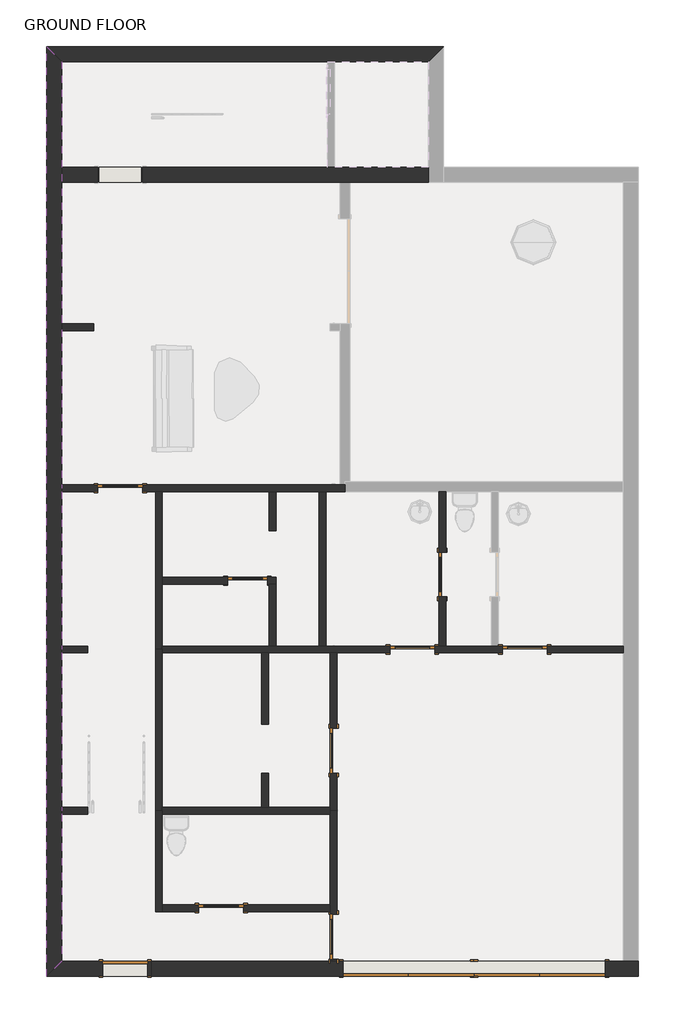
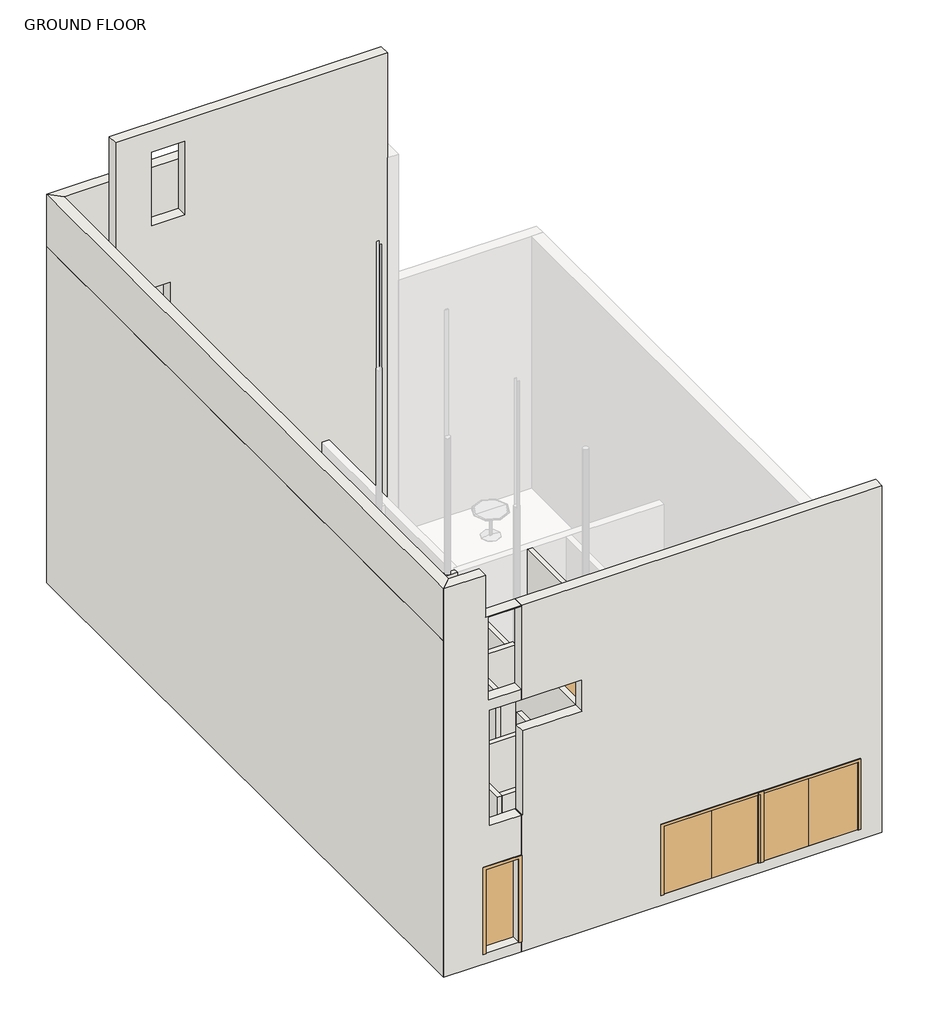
# One storey, part 1 of 2: 25 walls, 11 doors.
"""IFC4 building model written with IfcOpenShell, lengths in millimetres."""

from ifc_helpers import new_model, si_unit, frame, origin, origin_with_axes, place, context, project, spatial, polyline, outline, extrude, faceted_brep, transform, mapped, element, save
from components import double_flush_garage_doors_196828e7, single_flush_front_door_b84d2d09, door_6b1170f2, door_e49b49a8, door_4364fc02

model = new_model("IFC4")

# Units and contexts
model_context = context("Model", 3, world=origin())
ifc_project = project(units=[si_unit("LENGTHUNIT", "METRE", prefix="MILLI")], contexts=[model_context])

# Site, building, storey
site = spatial("IfcSite", under=ifc_project)
building = spatial("IfcBuilding", under=site)
storey = spatial("IfcBuildingStorey", under=building, Name="GROUND FLOOR", Elevation=0.0)

# Doors
placement = place(None, origin())
double_flush_garage_doors_shape = double_flush_garage_doors_196828e7(model_context)
element("IfcDoor", 1, ObjectType="Double-Flush : Garage Doors", at=placement, inside=storey, context=model_context, shape_type="MappedRepresentation", body=[
    mapped(double_flush_garage_doors_shape, transform((2594.1560388, -6836.940357, 0.0), x_axis=(1.0, 0.0, 0.0), y_axis=(0.0, 1.0, 0.0), z_axis=(0.0, 0.0, 1.0))),
])
element("IfcDoor", 2, ObjectType="Double-Flush : Garage Doors", at=placement, inside=storey, context=model_context, shape_type="MappedRepresentation", body=[
    mapped(double_flush_garage_doors_shape, transform((5261.1560388, -6836.940357, 0.0), x_axis=(1.0, 0.0, 0.0), y_axis=(0.0, 1.0, 0.0), z_axis=(0.0, 0.0, 1.0))),
])
single_flush_front_door_shape = single_flush_front_door_b84d2d09(model_context)
element("IfcDoor", 3, ObjectType="Single-Flush : Front Door", at=placement, inside=storey, context=model_context, shape_type="MappedRepresentation", body=[
    mapped(single_flush_front_door_shape, transform((-3171.6439612, -6836.940357, 0.0), x_axis=(-1.0, 0.0, 0.0), y_axis=(0.0, -1.0, 0.0), z_axis=(0.0, 0.0, 1.0))),
])
door_shape = door_6b1170f2(model_context)
element("IfcDoor", 4, ObjectType="Single-Glass 1 : 32\" x 84\"", at=placement, inside=storey, context=model_context, shape_type="MappedRepresentation", body=[
    mapped(door_shape, transform((-682.4439612, 1049.759643, 0.0), x_axis=(1.0, 0.0, 0.0), y_axis=(0.0, 1.0, 0.0), z_axis=(0.0, 0.0, 1.0))),
])
door_2_shape = door_e49b49a8(model_context)
element("IfcDoor", 5, ObjectType="Single-Glass 1 : 36\" x 84\"", at=placement, inside=storey, context=model_context, shape_type="MappedRepresentation", body=[
    mapped(door_2_shape, transform((2670.3560388, -347.240357, 0.0), x_axis=(1.0, 0.0, 0.0), y_axis=(0.0, 1.0, 0.0), z_axis=(0.0, 0.0, 1.0))),
])
door_3_shape = door_4364fc02(model_context)
element("IfcDoor", 6, ObjectType="Single-Glass 1 : 36\" x 84\"", at=placement, inside=storey, context=model_context, shape_type="MappedRepresentation", body=[
    mapped(door_3_shape, transform((4956.3560388, -347.240357, 0.0), x_axis=(-1.0, 0.0, 0.0), y_axis=(0.0, -1.0, 0.0), z_axis=(0.0, 0.0, 1.0))),
])
element("IfcDoor", 7, ObjectType="Single-Glass 1 : 36\" x 84\"", at=placement, inside=storey, context=model_context, shape_type="MappedRepresentation", body=[
    mapped(door_3_shape, transform((3279.9560388, 1176.759643, 0.0), x_axis=(0.0, -1.0, 0.0), y_axis=(1.0, 0.0, 0.0), z_axis=(0.0, 0.0, 1.0))),
])
element("IfcDoor", 8, ObjectType="Single-Glass 1 : 36\" x 84\"", at=placement, inside=storey, context=model_context, shape_type="MappedRepresentation", body=[
    mapped(door_3_shape, transform((1070.1560388, -2404.640357, 0.0), x_axis=(0.0, -1.0, 0.0), y_axis=(1.0, 0.0, 0.0), z_axis=(0.0, 0.0, 1.0))),
])
element("IfcDoor", 9, ObjectType="Single-Glass 1 : 36\" x 84\"", at=placement, inside=storey, context=model_context, shape_type="MappedRepresentation", body=[
    mapped(door_3_shape, transform((-3269.8798898, 2929.359643, 0.0), x_axis=(-1.0, 0.0, 0.0), y_axis=(0.0, -1.0, 0.0), z_axis=(0.0, 0.0, 1.0))),
])
element("IfcDoor", 10, ObjectType="Single-Glass 1 : 36\" x 84\"", at=placement, inside=storey, context=model_context, shape_type="MappedRepresentation", body=[
    mapped(door_3_shape, transform((-1215.8439612, -5605.040357, 0.0), x_axis=(-1.0, 0.0, 0.0), y_axis=(0.0, -1.0, 0.0), z_axis=(0.0, 0.0, 1.0))),
])
element("IfcDoor", 11, ObjectType="Single-Glass 1 : 36\" x 84\"", at=placement, inside=storey, context=model_context, shape_type="MappedRepresentation", body=[
    mapped(door_3_shape, transform((1070.1560388, -6189.240357, 0.0), x_axis=(0.0, -1.0, 0.0), y_axis=(1.0, 0.0, 0.0), z_axis=(0.0, 0.0, 1.0))),
])

# Walls
element("IfcWall", 12, ObjectType="Cast Concrete Wall 12\"", at=placement, inside=storey, context=model_context, shape_type="Brep", body=[
    faceted_brep([(7267.7560388, -6684.540357, -304.8), (6962.9560388, -6684.540357, -304.8), (-2638.2439612, -6684.540357, -304.8), (-2638.2439612, -6684.540357, 3657.6), (-2612.8439612, -6684.540357, 3657.6), (-2612.8439612, -6684.540357, 6096.0), (-968.1939612, -6684.540357, 6096.0), (-968.1939612, -6684.540357, 7010.4), (-2638.2439612, -6684.540357, 7010.4), (-2638.2439612, -6684.540357, 7315.2), (-2638.2439612, -6684.540357, 9728.2), (-2638.2439612, -6684.540357, 9753.6), (1527.3560388, -6684.540357, 9753.6), (1730.5560388, -6684.540357, 9753.6), (7267.7560388, -6684.540357, 9753.6), (7267.7560388, -6684.540357, 7315.2), (1260.6560388, -6684.540357, 1981.2), (1260.6560388, -6684.540357, 0.0), (6594.6560388, -6684.540357, 0.0), (6594.6560388, -6684.540357, 1981.2), (-2638.2439612, -6989.340357, -304.8), (7267.7560388, -6989.340357, -304.8), (7267.7560388, -6989.340357, 9753.6), (-2638.2439612, -6989.340357, 9753.6), (-2638.2439612, -6989.340357, 9728.2), (-2638.2439612, -6989.340357, 7315.2), (-2638.2439612, -6989.340357, 7010.4), (-968.1939612, -6989.340357, 7010.4), (-968.1939612, -6989.340357, 6096.0), (-2612.8439612, -6989.340357, 6096.0), (-2612.8439612, -6989.340357, 3657.6), (-2638.2439612, -6989.340357, 3657.6), (1260.6560388, -6989.340357, 0.0), (1260.6560388, -6989.340357, 1981.2), (6594.6560388, -6989.340357, 1981.2), (6594.6560388, -6989.340357, 0.0)], [[[0, 1, 2, 3, 4, 5, 6, 7, 8, 9, 10, 11, 12, 13, 14, 15], [16, 17, 18, 19]], [[20, 21, 22, 23, 24, 25, 26, 27, 28, 29, 30, 31], [32, 33, 34, 35]], [[2, 1, 0, 21, 20]], [[2, 20, 31, 3]], [[23, 11, 10, 9, 8, 26, 25, 24]], [[14, 13, 12, 11, 23, 22]], [[0, 15, 14, 22, 21]], [[33, 16, 19, 34]], [[17, 16, 33, 32]], [[17, 32, 35, 18]], [[18, 35, 34, 19]], [[28, 6, 5, 29]], [[26, 8, 7, 27]], [[27, 7, 6, 28]], [[4, 30, 29, 5]], [[30, 4, 3, 31]]]),
])
element("IfcWall", 13, ObjectType="Cast Concrete Wall 12\"", at=placement, inside=storey, context=model_context, shape_type="SweptSolid", body=[
    extrude(outline(polyline([(-4467.0439612, 11603.459643), (-4467.0439612, -6684.540357), (-4771.8439612, -6989.340357), (-4771.8439612, 11908.259643), (-4467.0439612, 11603.459643)])), frame((0.0, 0.0, -304.8), z_axis=(0.0, 0.0, 1.0), x_axis=(1.0, 0.0, 0.0)), (0.0, 0.0, 1.0), 9753.6),
])
element("IfcWall", 14, ObjectType="Cast Concrete Wall 12\"", at=placement, inside=storey, context=model_context, shape_type="Brep", body=[
    faceted_brep([(-4467.0439612, 11603.459643, 10972.8), (-4467.0439612, 11603.459643, -304.8), (3000.5560388, 11603.459643, -304.8), (3000.5560388, 11603.459643, 10972.8), (1089.2060388, 11603.459643, 10972.8), (949.5060388, 11603.459643, 10972.8), (-4771.8439612, 11908.259643, -304.8), (-4771.8439612, 11908.259643, 10972.8), (3305.3560388, 11908.259643, 10972.8), (3305.3560388, 11908.259643, -304.8)], [[[0, 1, 2, 3, 4, 5]], [[6, 7, 8, 9]], [[2, 1, 6, 9]], [[0, 5, 4, 3, 8, 7]], [[3, 2, 9, 8]], [[0, 7, 6, 1]]]),
])
element("IfcWall", 15, ObjectType="Cast Concrete Wall 12\"", at=placement, inside=storey, context=model_context, shape_type="Brep", body=[
    faceted_brep([(3000.5560388, 9457.159643, 14020.8), (3000.5560388, 9457.159643, -304.8), (-4467.0439612, 9457.159643, -304.8), (-4467.0439612, 9457.159643, 14020.8), (-2562.0439612, 9457.159643, 11277.6), (-2562.0439612, 9457.159643, 13411.2), (-3476.4439612, 9457.159643, 13411.2), (-3476.4439612, 9457.159643, 11277.6), (-2812.6798898, 9457.159643, 2133.6), (-3727.0798898, 9457.159643, 2133.6), (-3727.0798898, 9457.159643, 0.0), (-2812.6798898, 9457.159643, 0.0), (-3727.0798898, 9457.159643, 5791.2), (-3727.0798898, 9457.159643, 3657.6), (-2812.6798898, 9457.159643, 3657.6), (-2812.6798898, 9457.159643, 5791.2), (-2965.0798898, 9457.159643, 9448.8), (-3879.4798898, 9457.159643, 9448.8), (-3879.4798898, 9457.159643, 7315.2), (-2965.0798898, 9457.159643, 7315.2), (3000.5560388, 9152.359643, -304.8), (3000.5560388, 9152.359643, 10972.8), (3000.5560388, 9152.359643, 14020.8), (-4467.0439612, 9152.359643, 14020.8), (-4467.0439612, 9152.359643, 10972.8), (-4467.0439612, 9152.359643, -304.8), (-2562.0439612, 9152.359643, 11277.6), (-3476.4439612, 9152.359643, 11277.6), (-3476.4439612, 9152.359643, 13411.2), (-2562.0439612, 9152.359643, 13411.2), (-2812.6798898, 9152.359643, 2133.6), (-2812.6798898, 9152.359643, 0.0), (-3727.0798898, 9152.359643, 0.0), (-3727.0798898, 9152.359643, 2133.6), (-3727.0798898, 9152.359643, 5791.2), (-2812.6798898, 9152.359643, 5791.2), (-2812.6798898, 9152.359643, 3657.6), (-3727.0798898, 9152.359643, 3657.6), (-2965.0798898, 9152.359643, 9448.8), (-2965.0798898, 9152.359643, 7315.2), (-3879.4798898, 9152.359643, 7315.2), (-3879.4798898, 9152.359643, 9448.8)], [[[0, 1, 2, 3], [4, 5, 6, 7], [8, 9, 10, 11], [12, 13, 14, 15], [16, 17, 18, 19]], [[20, 21, 22, 23, 24, 25], [26, 27, 28, 29], [30, 31, 32, 33], [34, 35, 36, 37], [38, 39, 40, 41]], [[2, 1, 20, 25]], [[0, 3, 23, 22]], [[0, 22, 21, 20, 1]], [[3, 2, 25, 24, 23]], [[27, 26, 4, 7]], [[28, 27, 7, 6]], [[29, 28, 6, 5]], [[26, 29, 5, 4]], [[31, 30, 8, 11]], [[32, 31, 11, 10]], [[33, 32, 10, 9]], [[30, 33, 9, 8]], [[13, 12, 34, 37]], [[14, 13, 37, 36]], [[15, 14, 36, 35]], [[12, 15, 35, 34]], [[39, 38, 16, 19]], [[40, 39, 19, 18]], [[41, 40, 18, 17]], [[38, 41, 17, 16]]]),
])
element("IfcWall", 16, ObjectType="Cast Concrete Wall 12\"", at=placement, inside=storey, context=model_context, shape_type="Brep", body=[
    faceted_brep([(-2638.2439612, -6684.540357, -304.8), (-4467.0439612, -6684.540357, -304.8), (-4467.0439612, -6684.540357, 10972.8), (-3628.8439612, -6684.540357, 10972.8), (-3628.8439612, -6684.540357, 9753.6), (-2638.2439612, -6684.540357, 9753.6), (-2638.2439612, -6684.540357, 9728.2), (-3552.6439612, -6684.540357, 9728.2), (-3552.6439612, -6684.540357, 7315.2), (-2638.2439612, -6684.540357, 7315.2), (-2638.2439612, -6684.540357, 7010.4), (-3527.2439612, -6684.540357, 7010.4), (-3527.2439612, -6684.540357, 3657.6), (-2638.2439612, -6684.540357, 3657.6), (-3628.8439612, -6684.540357, 0.0), (-2714.4439612, -6684.540357, 0.0), (-2714.4439612, -6684.540357, 2438.4), (-3628.8439612, -6684.540357, 2438.4), (-4771.8439612, -6989.340357, -304.8), (-2638.2439612, -6989.340357, -304.8), (-2638.2439612, -6989.340357, 3657.6), (-3527.2439612, -6989.340357, 3657.6), (-3527.2439612, -6989.340357, 7010.4), (-2638.2439612, -6989.340357, 7010.4), (-2638.2439612, -6989.340357, 7315.2), (-3552.6439612, -6989.340357, 7315.2), (-3552.6439612, -6989.340357, 9728.2), (-2638.2439612, -6989.340357, 9728.2), (-2638.2439612, -6989.340357, 9753.6), (-3628.8439612, -6989.340357, 9753.6), (-3628.8439612, -6989.340357, 10972.8), (-4771.8439612, -6989.340357, 10972.8), (-2714.4439612, -6989.340357, 0.0), (-3628.8439612, -6989.340357, 0.0), (-3628.8439612, -6989.340357, 2438.4), (-2714.4439612, -6989.340357, 2438.4)], [[[0, 1, 2, 3, 4, 5, 6, 7, 8, 9, 10, 11, 12, 13], [14, 15, 16, 17]], [[18, 19, 20, 21, 22, 23, 24, 25, 26, 27, 28, 29, 30, 31], [32, 33, 34, 35]], [[1, 0, 19, 18]], [[3, 2, 31, 30]], [[4, 3, 30, 29]], [[5, 4, 29, 28]], [[5, 28, 27, 6]], [[19, 0, 13, 20]], [[9, 24, 23, 10]], [[1, 18, 31, 2]], [[8, 25, 24, 9]], [[25, 8, 7, 26]], [[26, 7, 6, 27]], [[32, 15, 14, 33]], [[33, 14, 17, 34]], [[34, 17, 16, 35]], [[15, 32, 35, 16]], [[11, 22, 21, 12]], [[22, 11, 10, 23]], [[12, 21, 20, 13]]]),
])
element("IfcWall", 17, ObjectType="Cast Concrete Wall 12\"", at=placement, inside=storey, context=model_context, shape_type="Brep", body=[
    faceted_brep([(-4467.0439612, -6684.540357, 9448.8), (-4467.0439612, 11603.459643, 9448.8), (-4467.0439612, 11603.459643, 10972.8), (-4467.0439612, 3000.0810017, 10972.8), (-4467.0439612, 2860.3810017, 10972.8), (-4467.0439612, -276.5189983, 10972.8), (-4467.0439612, -416.2189983, 10972.8), (-4467.0439612, -3553.1189983, 10972.8), (-4467.0439612, -3692.8189983, 10972.8), (-4467.0439612, -6684.540357, 10972.8), (-4771.8439612, -6989.340357, 9448.8), (-4771.8439612, -6989.340357, 10972.8), (-4771.8439612, 11908.259643, 10972.8), (-4771.8439612, 11908.259643, 9448.8)], [[[0, 1, 2, 3, 4, 5, 6, 7, 8, 9]], [[10, 11, 12, 13]], [[1, 0, 10, 13]], [[9, 8, 7, 6, 5, 4, 3, 2, 12, 11]], [[2, 1, 13, 12]], [[0, 9, 11, 10]]]),
])
element("IfcWall", 18, ObjectType="Interior - 5 1/2\" Partition (1-hr)", at=placement, inside=storey, context=model_context, shape_type="Brep", body=[
    faceted_brep([(1140.0060388, -3623.840357, 0.0), (1140.0060388, -3593.3868269, 0.0), (1140.0060388, -2861.840357, 0.0), (1140.0060388, -2861.840357, 2133.6), (1140.0060388, -1947.440357, 2133.6), (1140.0060388, -1947.440357, 0.0), (1140.0060388, -417.090357, 0.0), (1140.0060388, -417.090357, 3352.8), (1140.0060388, -3623.840357, 3352.8), (1000.3060388, -2861.840357, 2133.6), (1000.3060388, -2861.840357, 0.0), (1000.3060388, -3553.990357, 0.0), (1000.3060388, -3623.840357, 0.0), (1000.3060388, -3623.840357, 3352.8), (1000.3060388, -3553.990357, 3352.8), (1000.3060388, -417.090357, 3352.8), (1000.3060388, -417.090357, 0.0), (1000.3060388, -1947.440357, 0.0), (1000.3060388, -1947.440357, 2133.6)], [[[0, 1, 2, 3, 4, 5, 6, 7, 8]], [[9, 10, 11, 12, 13, 14, 15, 16, 17, 18]], [[12, 11, 10, 2, 1, 0]], [[17, 16, 6, 5]], [[0, 8, 13, 12]], [[7, 6, 16, 15]], [[8, 7, 15, 14, 13]], [[3, 2, 10, 9]], [[4, 3, 9, 18]], [[5, 4, 18, 17]]]),
])
element("IfcWall", 19, ObjectType="Interior - 5 1/2\" Partition (1-hr)", at=placement, inside=storey, context=model_context, shape_type="SweptSolid", body=[
    extrude(outline(polyline([(911.4060388, 2859.509643), (911.4060388, -277.390357), (771.7060388, -277.390357), (771.7060388, 2859.509643), (911.4060388, 2859.509643)])), origin_with_axes(), (0.0, 0.0, 1.0), 3352.8),
])
element("IfcWall", 20, ObjectType="Interior - 5 1/2\" Partition (1-hr)", at=placement, inside=storey, context=model_context, shape_type="SweptSolid", body=[
    extrude(outline(polyline([(-4467.0439612, 6272.5766583), (-3808.0569983, 6272.5766583), (-3808.0569983, 6132.8766583), (-4467.0439612, 6132.8766583), (-4467.0439612, 6272.5766583)])), origin_with_axes(), (0.0, 0.0, 1.0), 3352.8),
])
element("IfcWall", 21, ObjectType="Interior - 5 1/2\" Partition (1-hr)", at=placement, inside=storey, context=model_context, shape_type="Brep", body=[
    faceted_brep([(-2555.6939612, 2859.509643, 0.0), (-2555.6939612, -347.240357, 0.0), (-2555.6939612, -347.240357, 3352.8), (-2555.6939612, 2859.509643, 3352.8), (-2415.9939612, 2859.509643, 0.0), (-2415.9939612, 2859.509643, 3352.8), (-2415.9939612, 1119.609643, 3352.8), (-2415.9939612, 979.909643, 3352.8), (-2415.9939612, -277.390357, 3352.8), (-2415.9939612, -347.240357, 3352.8), (-2415.9939612, -347.240357, 0.0), (-2415.9939612, -277.390357, 0.0), (-2415.9939612, 979.909643, 0.0), (-2415.9939612, 1119.609643, 0.0)], [[[0, 1, 2, 3]], [[4, 5, 6, 7, 8, 9, 10, 11, 12, 13]], [[1, 0, 4, 13, 12, 11, 10]], [[2, 1, 10, 9]], [[0, 3, 5, 4]], [[3, 2, 9, 8, 7, 6, 5]]]),
])
element("IfcWall", 22, ObjectType="Interior - 5 1/2\" Partition (1-hr)", at=placement, inside=storey, context=model_context, shape_type="Brep", body=[
    faceted_brep([(-2555.6939612, -347.240357, 0.0), (-2555.6939612, -3623.840357, 0.0), (-2555.6939612, -3623.840357, 3352.8), (-2555.6939612, -347.240357, 3352.8), (-2415.9939612, -347.240357, 0.0), (-2415.9939612, -347.240357, 3352.8), (-2415.9939612, -417.090357, 3352.8), (-2415.9939612, -3553.990357, 3352.8), (-2415.9939612, -3623.840357, 3352.8), (-2415.9939612, -3623.840357, 0.0), (-2415.9939612, -3553.990357, 0.0), (-2415.9939612, -417.090357, 0.0)], [[[0, 1, 2, 3]], [[4, 5, 6, 7, 8, 9, 10, 11]], [[1, 0, 4, 11, 10, 9]], [[2, 1, 9, 8]], [[0, 3, 5, 4]], [[3, 2, 8, 7, 6, 5]]]),
])
element("IfcWall", 23, ObjectType="Interior - 5 1/2\" Partition (1-hr)", at=placement, inside=storey, context=model_context, shape_type="Brep", body=[
    faceted_brep([(-2555.6939612, -3623.840357, 0.0), (-2555.6939612, -5674.890357, 0.0), (-2555.6939612, -5674.890357, 3352.8), (-2555.6939612, -3623.840357, 3352.8), (-2415.9939612, -3623.840357, 0.0), (-2415.9939612, -3623.840357, 3352.8), (-2415.9939612, -3693.690357, 3352.8), (-2415.9939612, -5535.190357, 3352.8), (-2415.9939612, -5674.890357, 3352.8), (-2415.9939612, -5674.890357, 0.0), (-2415.9939612, -5535.190357, 0.0), (-2415.9939612, -3693.690357, 0.0)], [[[0, 1, 2, 3]], [[4, 5, 6, 7, 8, 9, 10, 11]], [[1, 0, 4, 11, 10, 9]], [[0, 3, 5, 4]], [[2, 1, 9, 8]], [[3, 2, 8, 7, 6, 5]]]),
])
element("IfcWall", 24, ObjectType="Interior - 5 1/2\" Partition (1-hr)", at=placement, inside=storey, context=model_context, shape_type="SweptSolid", body=[
    extrude(outline(polyline([(0.0, -2415.9939612), (0.0, -1673.0439612), (2133.6, -1673.0439612), (2133.6, -758.6439612), (0.0, -758.6439612), (0.0, 1000.3060388), (3352.8, 1000.3060388), (3352.8, -2415.9939612), (0.0, -2415.9939612)])), frame((0.0, -5674.890357, 0.0), z_axis=(0.0, 1.0, 0.0), x_axis=(0.0, 0.0, 1.0)), (0.0, 0.0, 1.0), 139.7),
])
element("IfcWall", 25, ObjectType="Interior - 5 1/2\" Partition (1-hr)", at=placement, inside=storey, context=model_context, shape_type="Brep", body=[
    faceted_brep([(1140.0060388, -6684.540357, 0.0), (1140.0060388, -6646.440357, 0.0), (1140.0060388, -6646.440357, 2133.6), (1140.0060388, -5732.040357, 2133.6), (1140.0060388, -5732.040357, 0.0), (1140.0060388, -3654.2938872, 0.0), (1140.0060388, -3623.840357, 0.0), (1140.0060388, -3623.840357, 3352.8), (1140.0060388, -6684.540357, 3352.8), (1000.3060388, -6646.440357, 2133.6), (1000.3060388, -6646.440357, 0.0), (1000.3060388, -6684.540357, 0.0), (1000.3060388, -6684.540357, 3352.8), (1000.3060388, -5674.890357, 3352.8), (1000.3060388, -5535.190357, 3352.8), (1000.3060388, -3693.690357, 3352.8), (1000.3060388, -3623.840357, 3352.8), (1000.3060388, -3623.840357, 0.0), (1000.3060388, -3693.690357, 0.0), (1000.3060388, -5535.190357, 0.0), (1000.3060388, -5674.890357, 0.0), (1000.3060388, -5732.040357, 0.0), (1000.3060388, -5732.040357, 2133.6)], [[[0, 1, 2, 3, 4, 5, 6, 7, 8]], [[9, 10, 11, 12, 13, 14, 15, 16, 17, 18, 19, 20, 21, 22]], [[11, 10, 1, 0]], [[21, 20, 19, 18, 17, 6, 5, 4]], [[7, 6, 17, 16]], [[0, 8, 12, 11]], [[8, 7, 16, 15, 14, 13, 12]], [[2, 1, 10, 9]], [[3, 2, 9, 22]], [[4, 3, 22, 21]]]),
])
element("IfcWall", 26, ObjectType="Interior - 5 1/2\" Partition (1-hr)", at=placement, inside=storey, context=model_context, shape_type="SweptSolid", body=[
    extrude(outline(polyline([(719.559643, 2133.6), (719.559643, 0.0), (-277.390357, 0.0), (-277.390357, 3352.8), (2859.509643, 3352.8), (2859.509643, 0.0), (1633.959643, 0.0), (1633.959643, 2133.6), (719.559643, 2133.6)])), frame((3210.1060388, 0.0, 0.0), z_axis=(1.0, 0.0, 0.0), x_axis=(0.0, 1.0, 0.0)), (0.0, 0.0, 1.0), 139.7),
])
element("IfcWall", 27, ObjectType="Interior - 5 1/2\" Partition (1-hr)", at=placement, inside=storey, context=model_context, shape_type="Brep", body=[
    faceted_brep([(4499.1560388, -277.390357, 2133.6), (4499.1560388, -277.390357, 0.0), (4416.6060388, -277.390357, 0.0), (4276.9060388, -277.390357, 0.0), (3349.8060388, -277.390357, 0.0), (3210.1060388, -277.390357, 0.0), (3127.5560388, -277.390357, 0.0), (3127.5560388, -277.390357, 2133.6), (2213.1560388, -277.390357, 2133.6), (2213.1560388, -277.390357, 0.0), (1100.609569, -277.390357, 0.0), (1039.7025086, -277.390357, 0.0), (911.4060388, -277.390357, 0.0), (771.7060388, -277.390357, 0.0), (-104.5939612, -277.390357, 0.0), (-244.2939612, -277.390357, 0.0), (-2415.9939612, -277.390357, 0.0), (-2415.9939612, -277.390357, 3352.8), (-244.2939612, -277.390357, 3352.8), (-104.5939612, -277.390357, 3352.8), (771.7060388, -277.390357, 3352.8), (911.4060388, -277.390357, 3352.8), (1559.1060388, -277.390357, 3352.8), (3210.1060388, -277.390357, 3352.8), (3349.8060388, -277.390357, 3352.8), (4276.9060388, -277.390357, 3352.8), (4416.6060388, -277.390357, 3352.8), (6962.9560388, -277.390357, 3352.8), (6962.9560388, -277.390357, 0.0), (5413.5560388, -277.390357, 0.0), (5413.5560388, -277.390357, 2133.6), (3127.5560388, -417.090357, 0.0), (4499.1560388, -417.090357, 0.0), (4499.1560388, -417.090357, 2133.6), (5413.5560388, -417.090357, 2133.6), (5413.5560388, -417.090357, 0.0), (6962.9560388, -417.090357, 0.0), (6962.9560388, -417.090357, 3352.8), (1559.1060388, -417.090357, 3352.8), (1140.0060388, -417.090357, 3352.8), (1000.3060388, -417.090357, 3352.8), (-256.9939612, -417.090357, 3352.8), (-396.6939612, -417.090357, 3352.8), (-2415.9939612, -417.090357, 3352.8), (-2415.9939612, -417.090357, 0.0), (-396.6939612, -417.090357, 0.0), (-256.9939612, -417.090357, 0.0), (1000.3060388, -417.090357, 0.0), (1140.0060388, -417.090357, 0.0), (2213.1560388, -417.090357, 0.0), (2213.1560388, -417.090357, 2133.6), (3127.5560388, -417.090357, 2133.6), (-2415.9939612, -347.240357, 0.0), (-2415.9939612, -347.240357, 3352.8)], [[[0, 1, 2, 3, 4, 5, 6, 7, 8, 9, 10, 11, 12, 13, 14, 15, 16, 17, 18, 19, 20, 21, 22, 23, 24, 25, 26, 27, 28, 29, 30]], [[31, 32, 33, 34, 35, 36, 37, 38, 39, 40, 41, 42, 43, 44, 45, 46, 47, 48, 49, 50, 51]], [[6, 5, 4, 3, 2, 1, 32, 31]], [[49, 48, 47, 46, 45, 44, 52, 16, 15, 14, 13, 12, 11, 10, 9]], [[29, 28, 36, 35]], [[28, 27, 37, 36]], [[17, 16, 52, 44, 43, 53]], [[27, 26, 25, 24, 23, 22, 38, 37]], [[22, 21, 20, 19, 18, 17, 53, 43, 42, 41, 40, 39, 38]], [[7, 6, 31, 51]], [[8, 7, 51, 50]], [[9, 8, 50, 49]], [[33, 32, 1, 0]], [[34, 33, 0, 30]], [[35, 34, 30, 29]]]),
])
element("IfcWall", 28, ObjectType="Interior - 5 1/2\" Partition (1-hr)", at=placement, inside=storey, context=model_context, shape_type="SweptSolid", body=[
    extrude(outline(polyline([(-4467.0439612, -277.390357), (-3935.0569983, -277.390357), (-3935.0569983, -417.090357), (-4467.0439612, -417.090357), (-4467.0439612, -277.390357)])), origin_with_axes(), (0.0, 0.0, 1.0), 3657.6),
])
element("IfcWall", 29, ObjectType="Interior - 5 1/2\" Partition (1-hr)", at=placement, inside=storey, context=model_context, shape_type="Brep", body=[
    faceted_brep([(-4467.0439612, 2859.509643, 0.0), (-3727.0798898, 2859.509643, 0.0), (-3727.0798898, 2859.509643, 2133.6), (-2812.6798898, 2859.509643, 2133.6), (-2812.6798898, 2859.509643, 0.0), (-2555.6939612, 2859.509643, 0.0), (-2415.9939612, 2859.509643, 0.0), (-244.2939612, 2859.509643, 0.0), (-104.5939612, 2859.509643, 0.0), (771.7060388, 2859.509643, 0.0), (911.4060388, 2859.509643, 0.0), (1298.7560388, 2859.509643, 0.0), (1298.7560388, 2859.509643, 3352.8), (911.4060388, 2859.509643, 3352.8), (771.7060388, 2859.509643, 3352.8), (-104.5939612, 2859.509643, 3352.8), (-244.2939612, 2859.509643, 3352.8), (-2415.9939612, 2859.509643, 3352.8), (-2555.6939612, 2859.509643, 3352.8), (-4467.0439612, 2859.509643, 3352.8), (-3727.0798898, 2999.209643, 2133.6), (-3727.0798898, 2999.209643, 0.0), (-4467.0439612, 2999.209643, 0.0), (-4467.0439612, 2999.209643, 3352.8), (1197.1560388, 2999.209643, 3352.8), (1298.7560388, 2999.209643, 3352.8), (1298.7560388, 2999.209643, 0.0), (1197.1560388, 2999.209643, 0.0), (1126.9521654, 2999.209643, 0.0), (1013.3599122, 2999.209643, 0.0), (-2812.6798898, 2999.209643, 0.0), (-2812.6798898, 2999.209643, 2133.6)], [[[0, 1, 2, 3, 4, 5, 6, 7, 8, 9, 10, 11, 12, 13, 14, 15, 16, 17, 18, 19]], [[20, 21, 22, 23, 24, 25, 26, 27, 28, 29, 30, 31]], [[22, 21, 1, 0]], [[30, 29, 28, 27, 26, 11, 10, 9, 8, 7, 6, 5, 4]], [[12, 11, 26, 25]], [[19, 18, 17, 16, 15, 14, 13, 12, 25, 24, 23]], [[0, 19, 23, 22]], [[2, 1, 21, 20]], [[3, 2, 20, 31]], [[4, 3, 31, 30]]]),
])
element("IfcWall", 30, ObjectType="Interior - 5 1/2\" Partition (1-hr)", at=placement, inside=storey, context=model_context, shape_type="Brep", body=[
    faceted_brep([(-276.0439612, 979.909643, 2133.6), (-276.0439612, 979.909643, 0.0), (-244.2939612, 979.909643, 0.0), (-104.5939612, 979.909643, 0.0), (-104.5939612, 979.909643, 3352.8), (-244.2939612, 979.909643, 3352.8), (-2415.9939612, 979.909643, 3352.8), (-2415.9939612, 979.909643, 0.0), (-1088.8439612, 979.909643, 0.0), (-1088.8439612, 979.909643, 2133.6), (-104.5939612, 1119.609643, 0.0), (-276.0439612, 1119.609643, 0.0), (-276.0439612, 1119.609643, 2133.6), (-1088.8439612, 1119.609643, 2133.6), (-1088.8439612, 1119.609643, 0.0), (-2415.9939612, 1119.609643, 0.0), (-2415.9939612, 1119.609643, 3352.8), (-104.5939612, 1119.609643, 3352.8)], [[[0, 1, 2, 3, 4, 5, 6, 7, 8, 9]], [[10, 11, 12, 13, 14, 15, 16, 17]], [[3, 2, 1, 11, 10]], [[8, 7, 15, 14]], [[4, 3, 10, 17]], [[7, 6, 16, 15]], [[6, 5, 4, 17, 16]], [[12, 11, 1, 0]], [[13, 12, 0, 9]], [[14, 13, 9, 8]]]),
])
element("IfcWall", 31, ObjectType="Interior - 5 1/2\" Partition (1-hr)", at=placement, inside=storey, context=model_context, shape_type="SweptSolid", body=[
    extrude(outline(polyline([(-244.2939612, 2065.759643), (-244.2939612, 2859.509643), (-104.5939612, 2859.509643), (-104.5939612, 2065.759643), (-244.2939612, 2065.759643)])), origin_with_axes(), (0.0, 0.0, 1.0), 3352.8),
])
element("IfcWall", 32, ObjectType="Interior - 5 1/2\" Partition (1-hr)", at=placement, inside=storey, context=model_context, shape_type="SweptSolid", body=[
    extrude(outline(polyline([(-244.2939612, -277.390357), (-244.2939612, 979.909643), (-104.5939612, 979.909643), (-104.5939612, -277.390357), (-244.2939612, -277.390357)])), origin_with_axes(), (0.0, 0.0, 1.0), 3352.8),
])
element("IfcWall", 33, ObjectType="Interior - 5 1/2\" Partition (1-hr)", at=placement, inside=storey, context=model_context, shape_type="SweptSolid", body=[
    extrude(outline(polyline([(-396.6939612, -1871.240357), (-396.6939612, -417.090357), (-256.9939612, -417.090357), (-256.9939612, -1871.240357), (-396.6939612, -1871.240357)])), origin_with_axes(), (0.0, 0.0, 1.0), 3352.8),
])
element("IfcWall", 34, ObjectType="Interior - 5 1/2\" Partition (1-hr)", at=placement, inside=storey, context=model_context, shape_type="SweptSolid", body=[
    extrude(outline(polyline([(-256.9939612, -2861.840357), (-256.9939612, -3553.990357), (-396.6939612, -3553.990357), (-396.6939612, -2861.840357), (-256.9939612, -2861.840357)])), origin_with_axes(), (0.0, 0.0, 1.0), 3352.8),
])
element("IfcWall", 35, ObjectType="Interior - 5 1/2\" Partition (1-hr)", at=placement, inside=storey, context=model_context, shape_type="Brep", body=[
    faceted_brep([(1000.3060388, -3553.990357, 0.0), (-256.9939612, -3553.990357, 0.0), (-396.6939612, -3553.990357, 0.0), (-2415.9939612, -3553.990357, 0.0), (-2415.9939612, -3553.990357, 3352.8), (-396.6939612, -3553.990357, 3352.8), (-256.9939612, -3553.990357, 3352.8), (1000.3060388, -3553.990357, 3352.8), (1000.3060388, -3693.690357, 0.0), (1000.3060388, -3693.690357, 3352.8), (-2415.9939612, -3693.690357, 3352.8), (-2415.9939612, -3693.690357, 0.0), (1000.3060388, -3623.840357, 0.0), (-2415.9939612, -3623.840357, 0.0), (1000.3060388, -3623.840357, 3352.8), (-2415.9939612, -3623.840357, 3352.8)], [[[0, 1, 2, 3, 4, 5, 6, 7]], [[8, 9, 10, 11]], [[3, 2, 1, 0, 12, 8, 11, 13]], [[0, 7, 14, 9, 8, 12]], [[4, 3, 13, 11, 10, 15]], [[7, 6, 5, 4, 15, 10, 9, 14]]]),
])
element("IfcWall", 36, ObjectType="Interior - 5 1/2\" Partition (1-hr)", at=placement, inside=storey, context=model_context, shape_type="SweptSolid", body=[
    extrude(outline(polyline([(-4467.0439612, -3553.990357), (-3935.0569983, -3553.990357), (-3935.0569983, -3693.690357), (-4467.0439612, -3693.690357), (-4467.0439612, -3553.990357)])), origin_with_axes(), (0.0, 0.0, 1.0), 3657.6),
])

save(model, "model.ifc")
